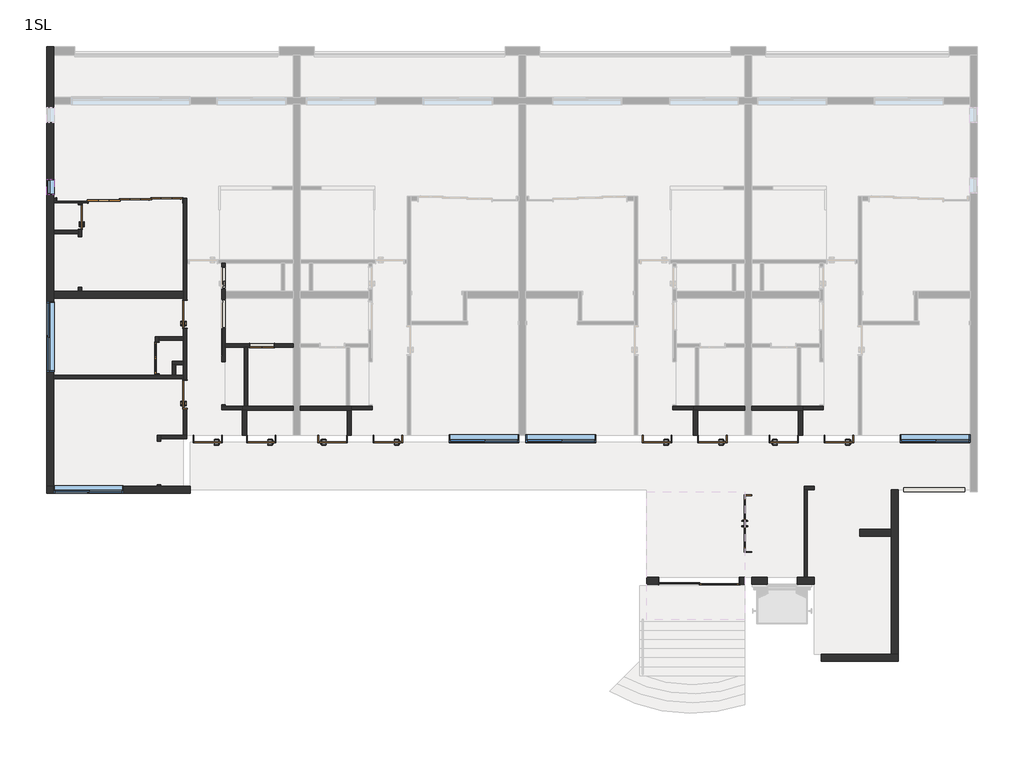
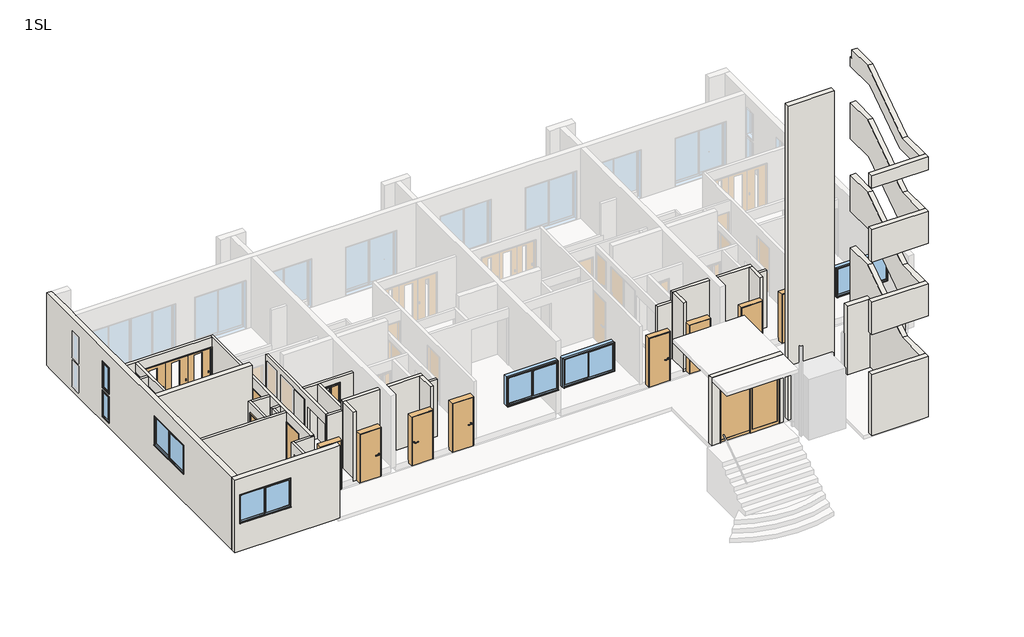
# One storey, part 1 of 3: 37 walls, 16 doors, 7 windows.
"""IFC4 building model written with IfcOpenShell, lengths in millimetres."""

from ifc_helpers import new_model, si_unit, frame, origin, place, context, project, spatial, polyline, outline, extrude, faceted_brep, transform, mapped, element, save
from components import door_02215395, door_74c77d62, door_561ce52f, door_3fdee943, door_21f0bdc0, door_3b96e66a, door_ecad7493, door_6eb1cc95, door_2193869f, window_a7724039, window_4c3e1407, w0450_h1100_93ba837a

model = new_model("IFC4")

# Units and contexts
model_context = context("Model", 3, world=origin())
ifc_project = project(units=[si_unit("LENGTHUNIT", "METRE", prefix="MILLI")], contexts=[model_context])

# Site, building, storey
site = spatial("IfcSite", under=ifc_project)
building = spatial("IfcBuilding", under=site)
storey = spatial("IfcBuildingStorey", under=building, Name="1SL", Elevation=1000.0)

# Doors
placement = place(None, origin())
door_shape = door_02215395(model_context)
element("IfcDoor", 1, ObjectType="鋼製_片開きマンション黒 : SD-1 w800h2000", at=placement, inside=storey, context=model_context, shape_type="MappedRepresentation", body=[
    mapped(door_shape, transform((-6095.6194095, -909.7401342, 1000.0), x_axis=(-1.0, 0.0, 0.0), y_axis=(0.0, -1.0, 0.0), z_axis=(0.0, 0.0, 1.0))),
])
element("IfcDoor", 2, ObjectType="鋼製_片開きマンション黒 : SD-1 w800h2000", at=placement, inside=storey, context=model_context, shape_type="MappedRepresentation", body=[
    mapped(door_shape, transform((-945.6194095, -909.7401342, 1000.0), x_axis=(-1.0, 0.0, 0.0), y_axis=(0.0, -1.0, 0.0), z_axis=(0.0, 0.0, 1.0))),
])
element("IfcDoor", 3, ObjectType="鋼製_片開きマンション黒 : SD-1 w800h2000", at=placement, inside=storey, context=model_context, shape_type="MappedRepresentation", body=[
    mapped(door_shape, transform((6754.3805905, -909.7401342, 1000.0), x_axis=(-1.0, 0.0, 0.0), y_axis=(0.0, -1.0, 0.0), z_axis=(0.0, 0.0, 1.0))),
])
element("IfcDoor", 4, ObjectType="鋼製_片開きマンション黒 : SD-1 w800h2000", at=placement, inside=storey, context=model_context, shape_type="MappedRepresentation", body=[
    mapped(door_shape, transform((11954.3805905, -909.7401342, 1000.0), x_axis=(-1.0, 0.0, 0.0), y_axis=(0.0, -1.0, 0.0), z_axis=(0.0, 0.0, 1.0))),
])
element("IfcDoor", 5, ObjectType="鋼製_片開きマンション黒 : SD-2 w800h2000", at=placement, inside=storey, context=model_context, shape_type="MappedRepresentation", body=[
    mapped(door_shape, transform((-4565.6194095, -909.7401342, 1000.0), x_axis=(-1.0, 0.0, 0.0), y_axis=(0.0, -1.0, 0.0), z_axis=(0.0, 0.0, 1.0))),
])
element("IfcDoor", 6, ObjectType="鋼製_片開きマンション黒 : SD-2 w800h2000", at=placement, inside=storey, context=model_context, shape_type="MappedRepresentation", body=[
    mapped(door_shape, transform((8334.3805905, -909.7401342, 1000.0), x_axis=(-1.0, 0.0, 0.0), y_axis=(0.0, -1.0, 0.0), z_axis=(0.0, 0.0, 1.0))),
])
door_2_shape = door_74c77d62(model_context)
element("IfcDoor", 7, ObjectType="鋼製_片開きマンション黒 : SD-2 w800h2000", at=placement, inside=storey, context=model_context, shape_type="MappedRepresentation", body=[
    mapped(door_2_shape, transform((-2525.6194095, -909.7401342, 1000.0), x_axis=(1.0, 0.0, 0.0), y_axis=(0.0, 1.0, 0.0), z_axis=(0.0, 0.0, 1.0))),
])
element("IfcDoor", 8, ObjectType="鋼製_片開きマンション黒 : SD-2 w800h2000", at=placement, inside=storey, context=model_context, shape_type="MappedRepresentation", body=[
    mapped(door_2_shape, transform((10374.3805905, -909.7401342, 1000.0), x_axis=(1.0, 0.0, 0.0), y_axis=(0.0, 1.0, 0.0), z_axis=(0.0, 0.0, 1.0))),
])
door_3_shape = door_561ce52f(model_context)
element("IfcDoor", 9, ObjectType="片引き_自動ドア_ガラス四方框 : AD-1 w2000h2200", at=placement, inside=storey, context=model_context, shape_type="MappedRepresentation", body=[
    mapped(door_3_shape, transform((7929.3805905, -4969.7401342, 1000.0), x_axis=(1.0, 0.0, 0.0), y_axis=(0.0, 1.0, 0.0), z_axis=(0.0, 0.0, 1.0))),
])
door_4_shape = door_3fdee943(model_context)
element("IfcDoor", 10, ObjectType="両開_ガラス四方框 : AD-2 w1600h2000", at=placement, inside=storey, context=model_context, shape_type="MappedRepresentation", body=[
    mapped(door_4_shape, transform((9354.3805905, -3329.7401342, 1000.0), x_axis=(0.0, 1.0, 0.0), y_axis=(-1.0, 0.0, 0.0), z_axis=(0.0, 0.0, 1.0))),
])
door_5_shape = door_21f0bdc0(model_context)
element("IfcDoor", 11, ObjectType="木製_片開き_フラッシュ : WD-3 w700h2000", at=placement, inside=storey, context=model_context, shape_type="MappedRepresentation", body=[
    mapped(door_5_shape, transform((-9745.6194095, 5440.2598658, 1100.0), x_axis=(0.0, 1.0, 0.0), y_axis=(-1.0, 0.0, 0.0), z_axis=(0.0, 0.0, 1.0))),
])
door_6_shape = door_3b96e66a(model_context)
element("IfcDoor", 12, ObjectType="木製_片開き_フラッシュ : WD-1\u3000w800h2000", at=placement, inside=storey, context=model_context, shape_type="MappedRepresentation", body=[
    mapped(door_6_shape, transform((-6745.6194095, 365.2598658, 1060.0), x_axis=(0.0, 1.0, 0.0), y_axis=(-1.0, 0.0, 0.0), z_axis=(0.0, 0.0, 1.0))),
])
element("IfcDoor", 13, ObjectType="木製_片開き_フラッシュ : WD-1\u3000w800h2000", at=placement, inside=storey, context=model_context, shape_type="MappedRepresentation", body=[
    mapped(door_6_shape, transform((-6745.6194095, 2654.3897435, 1060.0), x_axis=(0.0, 1.0, 0.0), y_axis=(-1.0, 0.0, 0.0), z_axis=(0.0, 0.0, 1.0))),
])
door_7_shape = door_ecad7493(model_context)
element("IfcDoor", 14, ObjectType="木製_折戸2枚_フラッシュ(UB) : WD-5 w900h2000", at=placement, inside=storey, context=model_context, shape_type="MappedRepresentation", body=[
    mapped(door_7_shape, transform((-7545.6194095, 1404.0387532, 1060.0), x_axis=(0.0, 1.0, 0.0), y_axis=(-1.0, 0.0, 0.0), z_axis=(0.0, 0.0, 1.0))),
])
door_8_shape = door_6eb1cc95(model_context)
element("IfcDoor", 15, ObjectType="木製_折戸2枚_フラッシュ(UB) : UB-1 w600h2000", at=placement, inside=storey, context=model_context, shape_type="MappedRepresentation", body=[
    mapped(door_8_shape, transform((-4545.6194095, 1760.2598658, 1210.0), x_axis=(1.0, 0.0, 0.0), y_axis=(0.0, 1.0, 0.0), z_axis=(0.0, 0.0, 1.0))),
])
door_9_shape = door_2193869f(model_context)
element("IfcDoor", 16, ObjectType="木製_片引き3枚_フラッシュ2 : WD-8 w2700h2000", at=placement, inside=storey, context=model_context, shape_type="MappedRepresentation", body=[
    mapped(door_9_shape, transform((-8171.1549135, 5910.2598658, 1100.0), x_axis=(-1.0, 0.0, 0.0), y_axis=(0.0, -1.0, 0.0), z_axis=(0.0, 0.0, 1.0))),
])

# Walls
element("IfcWall", 17, ObjectType="(C2)120", at=placement, inside=storey, context=model_context, shape_type="Brep", body=[
    faceted_brep([(-3645.6194095, 30.2598658, 1000.0), (-5105.6194095, 30.2598658, 1000.0), (-5105.6194095, 30.2598658, 1060.0), (-5105.6194095, 30.2598658, 3460.0), (-5105.6194095, 30.2598658, 3850.0), (-3645.6194095, 30.2598658, 3850.0), (-3645.6194095, -89.7401342, 1000.0), (-3645.6194095, -89.7401342, 3850.0), (-4985.6194095, -89.7401342, 3850.0), (-5105.6194095, -89.7401342, 3850.0), (-5105.6194095, -89.7401342, 1000.0), (-4985.6194095, -89.7401342, 1000.0)], [[[0, 1, 2, 3, 4, 5]], [[6, 7, 8, 9, 10, 11]], [[1, 0, 6, 11, 10]], [[5, 4, 9, 8, 7]], [[1, 10, 9, 4, 3, 2]], [[0, 5, 7, 6]]]),
])
element("IfcWall", 18, ObjectType="(C2)120", at=placement, inside=storey, context=model_context, shape_type="Brep", body=[
    faceted_brep([(-5105.6194095, -89.7401342, 3850.0), (-5105.6194095, -89.7401342, 1000.0), (-5105.6194095, -809.7401342, 1000.0), (-5105.6194095, -809.7401342, 3850.0), (-4985.6194095, -89.7401342, 1000.0), (-4985.6194095, -89.7401342, 3850.0), (-4985.6194095, -809.7401342, 3850.0), (-4985.6194095, -809.7401342, 3020.0), (-4985.6194095, -809.7401342, 1000.0)], [[[0, 1, 2, 3]], [[4, 5, 6, 7, 8]], [[2, 1, 4, 8]], [[0, 3, 6, 5]], [[0, 5, 4, 1]], [[3, 2, 8, 7, 6]]]),
])
element("IfcWall", 19, ObjectType="(C2)120", at=placement, inside=storey, context=model_context, shape_type="Brep", body=[
    faceted_brep([(-3445.6194095, -89.7401342, 1000.0), (-2105.6194095, -89.7401342, 1000.0), (-1985.6194095, -89.7401342, 1000.0), (-1985.6194095, -89.7401342, 3850.0), (-2105.6194095, -89.7401342, 3850.0), (-3445.6194095, -89.7401342, 3850.0), (-3445.6194095, 30.2598658, 1000.0), (-3445.6194095, 30.2598658, 3850.0), (-1985.6194095, 30.2598658, 3850.0), (-1985.6194095, 30.2598658, 3460.0), (-1985.6194095, 30.2598658, 1000.0), (-2035.6194095, 30.2598658, 1000.0), (-2135.6194095, 30.2598658, 1000.0), (-1985.6194095, -69.7401342, 1000.0)], [[[0, 1, 2, 3, 4, 5]], [[6, 7, 8, 9, 10, 11, 12]], [[2, 1, 0, 6, 12, 11, 10, 13]], [[5, 4, 3, 8, 7]], [[2, 13, 10, 9, 8, 3]], [[0, 5, 7, 6]]]),
])
element("IfcWall", 20, ObjectType="(C2)120", at=placement, inside=storey, context=model_context, shape_type="Brep", body=[
    faceted_brep([(-2105.6194095, -89.7401342, 3850.0), (-2105.6194095, -89.7401342, 1000.0), (-2105.6194095, -809.7401342, 1000.0), (-2105.6194095, -809.7401342, 3020.0), (-2105.6194095, -809.7401342, 3850.0), (-1985.6194095, -89.7401342, 1000.0), (-1985.6194095, -89.7401342, 3850.0), (-1985.6194095, -809.7401342, 3850.0), (-1985.6194095, -809.7401342, 1000.0)], [[[0, 1, 2, 3, 4]], [[5, 6, 7, 8]], [[2, 1, 5, 8]], [[0, 4, 7, 6]], [[0, 6, 5, 1]], [[4, 3, 2, 8, 7]]]),
])
element("IfcWall", 21, ObjectType="(C2)120", at=placement, inside=storey, context=model_context, shape_type="Brep", body=[
    faceted_brep([(9254.3805905, 30.2598658, 1000.0), (7944.3805905, 30.2598658, 1000.0), (7844.3805905, 30.2598658, 1000.0), (7794.3805905, 30.2598658, 1000.0), (7794.3805905, 30.2598658, 3460.0), (7794.3805905, 30.2598658, 3850.0), (9254.3805905, 30.2598658, 3850.0), (9254.3805905, -89.7401342, 1000.0), (9254.3805905, -89.7401342, 3850.0), (7914.3805905, -89.7401342, 3850.0), (7794.3805905, -89.7401342, 3850.0), (7794.3805905, -89.7401342, 1000.0), (7914.3805905, -89.7401342, 1000.0), (7794.3805905, -69.7401342, 1000.0)], [[[0, 1, 2, 3, 4, 5, 6]], [[7, 8, 9, 10, 11, 12]], [[3, 2, 1, 0, 7, 12, 11, 13]], [[6, 5, 10, 9, 8]], [[3, 13, 11, 10, 5, 4]], [[0, 6, 8, 7]]]),
])
element("IfcWall", 22, ObjectType="(C2)120", at=placement, inside=storey, context=model_context, shape_type="Brep", body=[
    faceted_brep([(7794.3805905, -89.7401342, 3850.0), (7794.3805905, -89.7401342, 1000.0), (7794.3805905, -809.7401342, 1000.0), (7794.3805905, -809.7401342, 3850.0), (7914.3805905, -89.7401342, 1000.0), (7914.3805905, -89.7401342, 3850.0), (7914.3805905, -809.7401342, 3850.0), (7914.3805905, -809.7401342, 3020.0), (7914.3805905, -809.7401342, 1000.0)], [[[0, 1, 2, 3]], [[4, 5, 6, 7, 8]], [[2, 1, 4, 8]], [[0, 3, 6, 5]], [[0, 5, 4, 1]], [[3, 2, 8, 7, 6]]]),
])
element("IfcWall", 23, ObjectType="(C2)120", at=placement, inside=storey, context=model_context, shape_type="Brep", body=[
    faceted_brep([(9454.3805905, -89.7401342, 1000.0), (10794.3805905, -89.7401342, 1000.0), (10914.3805905, -89.7401342, 1000.0), (10914.3805905, -89.7401342, 3850.0), (10794.3805905, -89.7401342, 3850.0), (9454.3805905, -89.7401342, 3850.0), (9454.3805905, 30.2598658, 1000.0), (9454.3805905, 30.2598658, 3850.0), (10914.3805905, 30.2598658, 3850.0), (10914.3805905, 30.2598658, 3460.0), (10914.3805905, 30.2598658, 1000.0), (10864.3805905, 30.2598658, 1000.0), (10764.3805905, 30.2598658, 1000.0), (10914.3805905, -69.7401342, 1000.0)], [[[0, 1, 2, 3, 4, 5]], [[6, 7, 8, 9, 10, 11, 12]], [[2, 1, 0, 6, 12, 11, 10, 13]], [[5, 4, 3, 8, 7]], [[2, 13, 10, 9, 8, 3]], [[0, 5, 7, 6]]]),
])
element("IfcWall", 24, ObjectType="(C2)120", at=placement, inside=storey, context=model_context, shape_type="Brep", body=[
    faceted_brep([(10794.3805905, -89.7401342, 3850.0), (10794.3805905, -89.7401342, 1000.0), (10794.3805905, -809.7401342, 1000.0), (10794.3805905, -809.7401342, 3020.0), (10794.3805905, -809.7401342, 3850.0), (10914.3805905, -89.7401342, 1000.0), (10914.3805905, -89.7401342, 3850.0), (10914.3805905, -809.7401342, 3850.0), (10914.3805905, -809.7401342, 1000.0)], [[[0, 1, 2, 3, 4]], [[5, 6, 7, 8]], [[2, 1, 5, 8]], [[0, 4, 7, 6]], [[0, 6, 5, 1]], [[4, 3, 2, 8, 7]]]),
])
element("IfcWall", 25, ObjectType="(L)100", at=placement, inside=storey, context=model_context, shape_type="Brep", body=[
    faceted_brep([(-7545.6194095, -2259.7401342, 3460.0), (-7545.6194095, -809.7401342, 3460.0), (-7545.6194095, -809.7401342, 1060.0), (-7545.6194095, -975.9612468, 1060.0), (-7545.6194095, -975.9612468, 3080.0), (-7545.6194095, -2215.9612468, 3080.0), (-7545.6194095, -2215.9612468, 1060.0), (-7545.6194095, -2259.7401342, 1060.0), (-7445.6194095, -809.7401342, 3460.0), (-7445.6194095, -909.7401342, 3460.0), (-7445.6194095, -2259.7401342, 3460.0), (-7445.6194095, -2259.7401342, 1060.0), (-7445.6194095, -2215.9612468, 1060.0), (-7445.6194095, -2215.9612468, 3080.0), (-7445.6194095, -975.9612468, 3080.0), (-7445.6194095, -975.9612468, 1060.0), (-7445.6194095, -909.7401342, 1060.0), (-7445.6194095, -809.7401342, 1060.0)], [[[0, 1, 2, 3, 4, 5, 6, 7]], [[8, 9, 10, 11, 12, 13, 14, 15, 16, 17]], [[2, 17, 16, 15, 3]], [[11, 7, 6, 12]], [[1, 0, 10, 9, 8]], [[2, 1, 8, 17]], [[0, 7, 11, 10]], [[14, 4, 3, 15]], [[5, 13, 12, 6]], [[13, 5, 4, 14]]]),
])
element("IfcWall", 26, ObjectType="(L)100", at=placement, inside=storey, context=model_context, shape_type="Brep", body=[
    faceted_brep([(-6745.6194095, -809.7401342, 1060.0), (-7445.6194095, -809.7401342, 1060.0), (-7445.6194095, -809.7401342, 3460.0), (-6795.6194095, -809.7401342, 3460.0), (-6695.6194095, -809.7401342, 3460.0), (-6695.6194095, -809.7401342, 1100.0), (-6745.6194095, -809.7401342, 1100.0), (-6745.6194095, -909.7401342, 1060.0), (-6745.6194095, -909.7401342, 1100.0), (-6695.6194095, -909.7401342, 1100.0), (-6695.6194095, -909.7401342, 3460.0), (-7445.6194095, -909.7401342, 3460.0), (-7445.6194095, -909.7401342, 1060.0), (-6795.6194095, -909.7401342, 1060.0), (-6695.6194095, -859.7401342, 3460.0)], [[[0, 1, 2, 3, 4, 5, 6]], [[7, 8, 9, 10, 11, 12, 13]], [[1, 0, 7, 13, 12]], [[4, 3, 2, 11, 10, 14]], [[0, 6, 8, 7]], [[5, 9, 8, 6]], [[5, 4, 14, 10, 9]], [[2, 1, 12, 11]]]),
])
element("IfcWall", 27, ObjectType="(L)100", at=placement, inside=storey, context=model_context, shape_type="Brep", body=[
    faceted_brep([(-6795.6194095, 910.2598658, 1060.0), (-7015.6194095, 910.2598658, 1060.0), (-7115.6194095, 910.2598658, 1060.0), (-10495.6194095, 910.2598658, 1060.0), (-10495.6194095, 910.2598658, 3460.0), (-7595.6194095, 910.2598658, 3460.0), (-7495.6194095, 910.2598658, 3460.0), (-7115.6194095, 910.2598658, 3460.0), (-7015.6194095, 910.2598658, 3460.0), (-6795.6194095, 910.2598658, 3460.0), (-6795.6194095, 810.2598658, 1060.0), (-6795.6194095, 810.2598658, 3460.0), (-10495.6194095, 810.2598658, 3460.0), (-10495.6194095, 810.2598658, 1060.0)], [[[0, 1, 2, 3, 4, 5, 6, 7, 8, 9]], [[10, 11, 12, 13]], [[3, 2, 1, 0, 10, 13]], [[9, 8, 7, 6, 5, 4, 12, 11]], [[0, 9, 11, 10]], [[4, 3, 13, 12]]]),
])
element("IfcWall", 28, ObjectType="(L)100", at=placement, inside=storey, context=model_context, shape_type="Brep", body=[
    faceted_brep([(-5105.6194095, 30.2598658, 1060.0), (-5595.6194095, 30.2598658, 1060.0), (-5695.6194095, 30.2598658, 1060.0), (-5695.6194095, 30.2598658, 3460.0), (-5595.6194095, 30.2598658, 3460.0), (-5105.6194095, 30.2598658, 3460.0), (-5105.6194095, -69.7401342, 1060.0), (-5105.6194095, -69.7401342, 3460.0), (-5695.6194095, -69.7401342, 3460.0), (-5695.6194095, -69.7401342, 1060.0)], [[[0, 1, 2, 3, 4, 5]], [[6, 7, 8, 9]], [[2, 1, 0, 6, 9]], [[5, 4, 3, 8, 7]], [[3, 2, 9, 8]], [[0, 5, 7, 6]]]),
])
element("IfcWall", 29, ObjectType="(L)100", at=placement, inside=storey, context=model_context, shape_type="Brep", body=[
    faceted_brep([(-5595.6194095, 4110.2598658, 3460.0), (-5595.6194095, 1810.2598658, 3460.0), (-5595.6194095, 1710.2598658, 3460.0), (-5595.6194095, 30.2598658, 3460.0), (-5595.6194095, 30.2598658, 1060.0), (-5595.6194095, 60.2598658, 1060.0), (-5595.6194095, 60.2598658, 3020.0), (-5595.6194095, 1300.2598658, 3020.0), (-5595.6194095, 1300.2598658, 1060.0), (-5595.6194095, 1710.2598658, 1060.0), (-5595.6194095, 1810.2598658, 1060.0), (-5595.6194095, 4110.2598658, 1060.0), (-5595.6194095, 2250.2598658, 3230.0), (-5595.6194095, 3090.2598658, 3230.0), (-5595.6194095, 3090.2598658, 1210.0), (-5595.6194095, 2250.2598658, 1210.0), (-5595.6194095, 4016.254513, 3230.0), (-5595.6194095, 4016.254513, 1210.0), (-5595.6194095, 3376.254513, 1210.0), (-5595.6194095, 3376.254513, 3230.0), (-5695.6194095, 30.2598658, 3460.0), (-5695.6194095, 4110.2598658, 3460.0), (-5695.6194095, 4110.2598658, 1060.0), (-5695.6194095, 1300.2598658, 1060.0), (-5695.6194095, 1300.2598658, 3020.0), (-5695.6194095, 60.2598658, 3020.0), (-5695.6194095, 60.2598658, 1060.0), (-5695.6194095, 30.2598658, 1060.0), (-5695.6194095, 3090.2598658, 3230.0), (-5695.6194095, 1450.2598658, 3230.0), (-5695.6194095, 1450.2598658, 1210.0), (-5695.6194095, 3090.2598658, 1210.0), (-5695.6194095, 4016.254513, 1210.0), (-5695.6194095, 4016.254513, 3230.0), (-5695.6194095, 3376.254513, 3230.0), (-5695.6194095, 3376.254513, 1210.0), (-5665.6194095, 2250.2598658, 3230.0), (-5665.6194095, 1450.2598658, 3230.0), (-5665.6194095, 1450.2598658, 1210.0), (-5665.6194095, 2250.2598658, 1210.0)], [[[0, 1, 2, 3, 4, 5, 6, 7, 8, 9, 10, 11], [12, 13, 14, 15], [16, 17, 18, 19]], [[20, 21, 22, 23, 24, 25, 26, 27], [28, 29, 30, 31], [32, 33, 34, 35]], [[22, 11, 10, 9, 8, 23]], [[4, 27, 26, 5]], [[3, 2, 1, 0, 21, 20]], [[0, 11, 22, 21]], [[4, 3, 20, 27]], [[7, 24, 23, 8]], [[25, 6, 5, 26]], [[24, 7, 6, 25]], [[36, 37, 29, 28, 13, 12]], [[13, 28, 31, 14]], [[38, 39, 15, 14, 31, 30]], [[39, 36, 12, 15]], [[37, 36, 39, 38]], [[37, 38, 30, 29]], [[16, 33, 32, 17]], [[17, 32, 35, 18]], [[18, 35, 34, 19]], [[33, 16, 19, 34]]]),
])
element("IfcWall", 30, ObjectType="(L)100", at=placement, inside=storey, context=model_context, shape_type="Brep", body=[
    faceted_brep([(-3645.6194095, 1810.2598658, 1060.0), (-5595.6194095, 1810.2598658, 1060.0), (-5595.6194095, 1810.2598658, 3460.0), (-3645.6194095, 1810.2598658, 3460.0), (-4175.6194095, 1810.2598658, 3230.0), (-4915.6194095, 1810.2598658, 3230.0), (-4915.6194095, 1810.2598658, 1210.0), (-4175.6194095, 1810.2598658, 1210.0), (-3645.6194095, 1710.2598658, 1060.0), (-3645.6194095, 1710.2598658, 3460.0), (-4955.6194095, 1710.2598658, 3460.0), (-5055.6194095, 1710.2598658, 3460.0), (-5595.6194095, 1710.2598658, 3460.0), (-5595.6194095, 1710.2598658, 1060.0), (-5055.6194095, 1710.2598658, 1060.0), (-4955.6194095, 1710.2598658, 1060.0), (-4175.6194095, 1710.2598658, 3230.0), (-4175.6194095, 1710.2598658, 1210.0), (-4915.6194095, 1710.2598658, 1210.0), (-4915.6194095, 1710.2598658, 3230.0)], [[[0, 1, 2, 3], [4, 5, 6, 7]], [[8, 9, 10, 11, 12, 13, 14, 15], [16, 17, 18, 19]], [[1, 0, 8, 15, 14, 13]], [[3, 2, 12, 11, 10, 9]], [[2, 1, 13, 12]], [[0, 3, 9, 8]], [[17, 16, 4, 7]], [[18, 17, 7, 6]], [[19, 18, 6, 5]], [[16, 19, 5, 4]]]),
])
element("IfcWall", 31, ObjectType="(L)100", at=placement, inside=storey, context=model_context, shape_type="Brep", body=[
    faceted_brep([(-7595.6194095, 2010.2598658, 1000.0), (-7595.6194095, 910.2598658, 1000.0), (-7595.6194095, 910.2598658, 3460.0), (-7595.6194095, 2010.2598658, 3460.0), (-7595.6194095, 934.0387532, 1060.0), (-7595.6194095, 1874.0387532, 1060.0), (-7595.6194095, 1874.0387532, 3080.0), (-7595.6194095, 934.0387532, 3080.0), (-7495.6194095, 910.2598658, 1000.0), (-7495.6194095, 2010.2598658, 1000.0), (-7495.6194095, 2010.2598658, 1060.0), (-7495.6194095, 2010.2598658, 3460.0), (-7495.6194095, 1910.2598658, 3460.0), (-7495.6194095, 910.2598658, 3460.0), (-7495.6194095, 1874.0387532, 1060.0), (-7495.6194095, 934.0387532, 1060.0), (-7495.6194095, 934.0387532, 3080.0), (-7495.6194095, 1874.0387532, 3080.0)], [[[0, 1, 2, 3], [4, 5, 6, 7]], [[8, 9, 10, 11, 12, 13], [14, 15, 16, 17]], [[1, 0, 9, 8]], [[3, 2, 13, 12, 11]], [[0, 3, 11, 10, 9]], [[2, 1, 8, 13]], [[5, 14, 17, 6]], [[14, 5, 4, 15]], [[15, 4, 7, 16]], [[16, 7, 6, 17]]]),
])
element("IfcWall", 32, ObjectType="(L)100", at=placement, inside=storey, context=model_context, shape_type="SweptSolid", body=[
    extrude(outline(polyline([(-7495.6194095, 2010.2598658), (-6795.6194095, 2010.2598658), (-6795.6194095, 1910.2598658), (-7495.6194095, 1910.2598658), (-7495.6194095, 2010.2598658)])), frame((0.0, 0.0, 1060.0), z_axis=(0.0, 0.0, 1.0), x_axis=(1.0, 0.0, 0.0)), (0.0, 0.0, 1.0), 2400.0),
])
element("IfcWall", 33, ObjectType="(L)100", at=placement, inside=storey, context=model_context, shape_type="Brep", body=[
    faceted_brep([(-6795.6194095, -859.7401342, 3500.0), (-6795.6194095, 5847.7598658, 3500.0), (-6795.6194095, 5972.7598658, 3500.0), (-6795.6194095, 5972.7598658, 3120.0), (-6795.6194095, 5972.7598658, 1100.0), (-6795.6194095, 3074.3897435, 1100.0), (-6795.6194095, 3074.3897435, 3080.0), (-6795.6194095, 2234.3897435, 3080.0), (-6795.6194095, 2234.3897435, 1100.0), (-6795.6194095, 785.2598658, 1100.0), (-6795.6194095, 785.2598658, 3080.0), (-6795.6194095, -54.7401342, 3080.0), (-6795.6194095, -54.7401342, 1100.0), (-6795.6194095, -809.7401342, 1100.0), (-6795.6194095, -809.7401342, 3460.0), (-6795.6194095, -859.7401342, 3460.0), (-6695.6194095, 5972.7598658, 3500.0), (-6695.6194095, -859.7401342, 3500.0), (-6695.6194095, -859.7401342, 3460.0), (-6695.6194095, -809.7401342, 3460.0), (-6695.6194095, -809.7401342, 1100.0), (-6695.6194095, -54.7401342, 1100.0), (-6695.6194095, -54.7401342, 3080.0), (-6695.6194095, 785.2598658, 3080.0), (-6695.6194095, 785.2598658, 1100.0), (-6695.6194095, 2234.3897435, 1100.0), (-6695.6194095, 2234.3897435, 3080.0), (-6695.6194095, 3074.3897435, 3080.0), (-6695.6194095, 3074.3897435, 1100.0), (-6695.6194095, 5972.7598658, 1100.0), (-6745.6194095, -809.7401342, 1100.0)], [[[0, 1, 2, 3, 4, 5, 6, 7, 8, 9, 10, 11, 12, 13, 14, 15]], [[16, 17, 18, 19, 20, 21, 22, 23, 24, 25, 26, 27, 28, 29]], [[4, 29, 28, 5]], [[20, 30, 13, 12, 21]], [[24, 9, 8, 25]], [[2, 1, 0, 17, 16]], [[4, 3, 2, 16, 29]], [[17, 0, 15, 18]], [[18, 15, 14, 19]], [[13, 30, 20, 19, 14]], [[23, 10, 9, 24]], [[11, 22, 21, 12]], [[10, 23, 22, 11]], [[27, 6, 5, 28]], [[7, 26, 25, 8]], [[6, 27, 26, 7]]]),
])
element("IfcWall", 34, ObjectType="(L)100", at=placement, inside=storey, context=model_context, shape_type="SweptSolid", body=[
    extrude(outline(polyline([(3310.2598658, 3500.0), (5847.7598658, 3500.0), (5847.7598658, 1100.0), (5810.2598658, 1100.0), (5810.2598658, 3120.0), (5070.2598658, 3120.0), (5070.2598658, 1100.0), (4866.254513, 1100.0), (4866.254513, 3080.0), (3426.254513, 3080.0), (3426.254513, 1100.0), (3310.2598658, 1100.0), (3310.2598658, 3500.0)])), frame((-9795.6194095, 0.0, 0.0), z_axis=(1.0, 0.0, 0.0), x_axis=(0.0, 1.0, 0.0)), (0.0, 0.0, 1.0), 100.0),
])
element("IfcWall", 35, ObjectType="(L)100", at=placement, inside=storey, context=model_context, shape_type="SweptSolid", body=[
    extrude(outline(polyline([(-10495.6194095, 5060.2598658), (-9795.6194095, 5060.2598658), (-9795.6194095, 4960.2598658), (-10495.6194095, 4960.2598658), (-10495.6194095, 5060.2598658)])), frame((0.0, 0.0, 1060.0), z_axis=(0.0, 0.0, 1.0), x_axis=(1.0, 0.0, 0.0)), (0.0, 0.0, 1.0), 2400.0),
])
element("IfcWall", 36, ObjectType="(L)100", at=placement, inside=storey, context=model_context, shape_type="Brep", body=[
    faceted_brep([(-1985.6194095, -69.7401342, 1000.0), (-1395.6194095, -69.7401342, 1000.0), (-1395.6194095, -69.7401342, 3460.0), (-1985.6194095, -69.7401342, 3460.0), (-1985.6194095, 30.2598658, 1000.0), (-1985.6194095, 30.2598658, 3460.0), (-1495.6194095, 30.2598658, 3460.0), (-1395.6194095, 30.2598658, 3460.0), (-1395.6194095, 30.2598658, 1060.0), (-1395.6194095, 30.2598658, 1000.0)], [[[0, 1, 2, 3]], [[4, 5, 6, 7, 8, 9]], [[1, 0, 4, 9]], [[3, 2, 7, 6, 5]], [[2, 1, 9, 8, 7]], [[0, 3, 5, 4]]]),
])
element("IfcWall", 37, ObjectType="(L)100", at=placement, inside=storey, context=model_context, shape_type="SweptSolid", body=[
    extrude(outline(polyline([(-5055.6194095, 30.2598658), (-5055.6194095, 1710.2598658), (-4955.6194095, 1710.2598658), (-4955.6194095, 30.2598658), (-5055.6194095, 30.2598658)])), frame((0.0, 0.0, 1060.0), z_axis=(0.0, 0.0, 1.0), x_axis=(1.0, 0.0, 0.0)), (0.0, 0.0, 1.0), 2400.0),
])
element("IfcWall", 38, ObjectType="(L)100", at=placement, inside=storey, context=model_context, shape_type="Brep", body=[
    faceted_brep([(7794.3805905, 30.2598658, 1000.0), (7204.3805905, 30.2598658, 1000.0), (7204.3805905, 30.2598658, 1060.0), (7204.3805905, 30.2598658, 3460.0), (7304.3805905, 30.2598658, 3460.0), (7794.3805905, 30.2598658, 3460.0), (7794.3805905, -69.7401342, 1000.0), (7794.3805905, -69.7401342, 3460.0), (7204.3805905, -69.7401342, 3460.0), (7204.3805905, -69.7401342, 1000.0)], [[[0, 1, 2, 3, 4, 5]], [[6, 7, 8, 9]], [[1, 0, 6, 9]], [[5, 4, 3, 8, 7]], [[3, 2, 1, 9, 8]], [[0, 5, 7, 6]]]),
])
element("IfcWall", 39, ObjectType="(L)100", at=placement, inside=storey, context=model_context, shape_type="Brep", body=[
    faceted_brep([(10914.3805905, -69.7401342, 1000.0), (11504.3805905, -69.7401342, 1000.0), (11504.3805905, -69.7401342, 3460.0), (10914.3805905, -69.7401342, 3460.0), (10914.3805905, 30.2598658, 1000.0), (10914.3805905, 30.2598658, 3460.0), (11404.3805905, 30.2598658, 3460.0), (11504.3805905, 30.2598658, 3460.0), (11504.3805905, 30.2598658, 1060.0), (11504.3805905, 30.2598658, 1000.0)], [[[0, 1, 2, 3]], [[4, 5, 6, 7, 8, 9]], [[1, 0, 4, 9]], [[3, 2, 7, 6, 5]], [[2, 1, 9, 8, 7]], [[0, 3, 5, 4]]]),
])
element("IfcWall", 40, ObjectType="(L)100", at=placement, inside=storey, context=model_context, shape_type="Brep", body=[
    faceted_brep([(-6795.6194095, 1310.2598658, 1060.0), (-7115.6194095, 1310.2598658, 1060.0), (-7115.6194095, 1310.2598658, 3460.0), (-6795.6194095, 1310.2598658, 3460.0), (-6795.6194095, 1210.2598658, 1060.0), (-6795.6194095, 1210.2598658, 3460.0), (-7015.6194095, 1210.2598658, 3460.0), (-7115.6194095, 1210.2598658, 3460.0), (-7115.6194095, 1210.2598658, 1060.0), (-7015.6194095, 1210.2598658, 1060.0)], [[[0, 1, 2, 3]], [[4, 5, 6, 7, 8, 9]], [[1, 0, 4, 9, 8]], [[3, 2, 7, 6, 5]], [[2, 1, 8, 7]], [[0, 3, 5, 4]]]),
])
element("IfcWall", 41, ObjectType="(L)100", at=placement, inside=storey, context=model_context, shape_type="SweptSolid", body=[
    extrude(outline(polyline([(-7115.6194095, 910.2598658), (-7115.6194095, 1210.2598658), (-7015.6194095, 1210.2598658), (-7015.6194095, 910.2598658), (-7115.6194095, 910.2598658)])), frame((0.0, 0.0, 1060.0), z_axis=(0.0, 0.0, 1.0), x_axis=(1.0, 0.0, 0.0)), (0.0, 0.0, 1.0), 2400.0),
])
element("IfcWall", 42, ObjectType="(L)100", at=placement, inside=storey, context=model_context, shape_type="Brep", body=[
    faceted_brep([(11254.3805905, -2269.7401342, 1000.0), (10954.3805905, -2269.7401342, 1000.0), (10954.3805905, -2269.7401342, 4000.0), (11254.3805905, -2269.7401342, 4000.0), (11254.3805905, -2369.7401342, 1000.0), (11254.3805905, -2369.7401342, 4000.0), (11054.3805905, -2369.7401342, 4000.0), (10954.3805905, -2369.7401342, 4000.0), (10954.3805905, -2369.7401342, 1000.0), (11054.3805905, -2369.7401342, 1000.0)], [[[0, 1, 2, 3]], [[4, 5, 6, 7, 8, 9]], [[1, 0, 4, 9, 8]], [[3, 2, 7, 6, 5]], [[2, 1, 8, 7]], [[0, 3, 5, 4]]]),
])
element("IfcWall", 43, ObjectType="(L)100", at=placement, inside=storey, context=model_context, shape_type="SweptSolid", body=[
    extrude(outline(polyline([(10954.3805905, -4859.7401342), (10954.3805905, -2369.7401342), (11054.3805905, -2369.7401342), (11054.3805905, -4859.7401342), (10954.3805905, -4859.7401342)])), frame((0.0, 0.0, 1000.0), z_axis=(0.0, 0.0, 1.0), x_axis=(1.0, 0.0, 0.0)), (0.0, 0.0, 1.0), 3000.0),
])
element("IfcWall", 44, ObjectType="(L1)125", at=placement, inside=storey, context=model_context, shape_type="Brep", body=[
    faceted_brep([(-6795.6194095, 5847.7598658, 3500.0), (-9695.6194095, 5847.7598658, 3500.0), (-9795.6194095, 5847.7598658, 3500.0), (-10495.6194095, 5847.7598658, 3500.0), (-10495.6194095, 5847.7598658, 1100.0), (-9795.6194095, 5847.7598658, 1100.0), (-9695.6194095, 5847.7598658, 1100.0), (-9535.6194095, 5847.7598658, 1100.0), (-9535.6194095, 5847.7598658, 3120.0), (-6795.6194095, 5847.7598658, 3120.0), (-10495.6194095, 5972.7598658, 3500.0), (-6795.6194095, 5972.7598658, 3500.0), (-6795.6194095, 5972.7598658, 3120.0), (-10435.6194095, 5972.7598658, 3120.0), (-10435.6194095, 5972.7598658, 1100.0), (-10495.6194095, 5972.7598658, 1100.0), (-10435.6194095, 5882.7598658, 1100.0), (-9535.6194095, 5882.7598658, 1100.0), (-9535.6194095, 5882.7598658, 3120.0), (-10435.6194095, 5882.7598658, 3120.0)], [[[0, 1, 2, 3, 4, 5, 6, 7, 8, 9]], [[10, 11, 12, 13, 14, 15]], [[4, 15, 14, 16, 17, 7, 6, 5]], [[3, 2, 1, 0, 11, 10]], [[11, 0, 9, 12]], [[4, 3, 10, 15]], [[18, 19, 13, 12, 9, 8]], [[17, 18, 8, 7]], [[19, 18, 17, 16]], [[19, 16, 14, 13]]]),
])
element("IfcWall", 45, ObjectType="(R)120", at=placement, inside=storey, context=model_context, shape_type="SweptSolid", body=[
    extrude(outline(polyline([(15554.3805905, -2419.7401342), (13804.3805905, -2419.7401342), (13804.3805905, -2299.7401342), (15554.3805905, -2299.7401342), (15554.3805905, -2419.7401342)])), frame((0.0, 0.0, 800.0), z_axis=(0.0, 0.0, 1.0), x_axis=(1.0, 0.0, 0.0)), (0.0, 0.0, 1.0), 1300.0),
])
element("IfcWall", 46, ObjectType="(R)200", at=placement, inside=storey, context=model_context, shape_type="Brep", body=[
    faceted_brep([(-10495.6194095, -2259.7401342, 1000.0), (-10495.6194095, 3110.2598658, 1000.0), (-10495.6194095, 3310.2598658, 1000.0), (-10495.6194095, 8660.2598658, 1000.0), (-10495.6194095, 8860.2598658, 1000.0), (-10495.6194095, 10059.9866207, 1000.0), (-10495.6194095, 10309.9866207, 1000.0), (-10495.6194095, 10309.9866207, 4000.0), (-10495.6194095, 10059.9866207, 4000.0), (-10495.6194095, 8860.2598658, 4000.0), (-10495.6194095, 8660.2598658, 4000.0), (-10495.6194095, 3310.2598658, 4000.0), (-10495.6194095, 3110.2598658, 4000.0), (-10495.6194095, -2259.7401342, 4000.0), (-10495.6194095, 1014.3897435, 2130.0), (-10495.6194095, 1014.3897435, 3330.0), (-10495.6194095, 3014.3897435, 3330.0), (-10495.6194095, 3014.3897435, 2130.0), (-10495.6194095, 6070.2598658, 2380.0), (-10495.6194095, 6070.2598658, 3480.0), (-10495.6194095, 6520.2598658, 3480.0), (-10495.6194095, 6520.2598658, 2380.0), (-10495.6194095, 6070.2598658, 1180.0), (-10495.6194095, 6070.2598658, 2280.0), (-10495.6194095, 6520.2598658, 2280.0), (-10495.6194095, 6520.2598658, 1180.0), (-10495.6194095, 8130.2598658, 2380.0), (-10495.6194095, 8130.2598658, 3480.0), (-10495.6194095, 8580.2598658, 3480.0), (-10495.6194095, 8580.2598658, 2380.0), (-10495.6194095, 8130.2598658, 1180.0), (-10495.6194095, 8130.2598658, 2280.0), (-10495.6194095, 8580.2598658, 2280.0), (-10495.6194095, 8580.2598658, 1180.0), (-10695.6194095, -2259.7401342, 1000.0), (-10695.6194095, -2259.7401342, 4000.0), (-10695.6194095, 10309.9866207, 4000.0), (-10695.6194095, 10309.9866207, 1000.0), (-10695.6194095, 10059.9866207, 1000.0), (-10695.6194095, 1014.3897435, 2130.0), (-10695.6194095, 3014.3897435, 2130.0), (-10695.6194095, 3014.3897435, 3330.0), (-10695.6194095, 1014.3897435, 3330.0), (-10695.6194095, 6070.2598658, 2380.0), (-10695.6194095, 6520.2598658, 2380.0), (-10695.6194095, 6520.2598658, 3480.0), (-10695.6194095, 6070.2598658, 3480.0), (-10695.6194095, 6070.2598658, 1180.0), (-10695.6194095, 6520.2598658, 1180.0), (-10695.6194095, 6520.2598658, 2280.0), (-10695.6194095, 6070.2598658, 2280.0), (-10695.6194095, 8130.2598658, 2380.0), (-10695.6194095, 8580.2598658, 2380.0), (-10695.6194095, 8580.2598658, 3480.0), (-10695.6194095, 8130.2598658, 3480.0), (-10695.6194095, 8130.2598658, 1180.0), (-10695.6194095, 8580.2598658, 1180.0), (-10695.6194095, 8580.2598658, 2280.0), (-10695.6194095, 8130.2598658, 2280.0)], [[[0, 1, 2, 3, 4, 5, 6, 7, 8, 9, 10, 11, 12, 13], [14, 15, 16, 17], [18, 19, 20, 21], [22, 23, 24, 25], [26, 27, 28, 29], [30, 31, 32, 33]], [[34, 35, 36, 37, 38], [39, 40, 41, 42], [43, 44, 45, 46], [47, 48, 49, 50], [51, 52, 53, 54], [55, 56, 57, 58]], [[6, 5, 4, 3, 2, 1, 0, 34, 38, 37]], [[13, 12, 11, 10, 9, 8, 7, 36, 35]], [[0, 13, 35, 34]], [[7, 6, 37, 36]], [[15, 14, 39, 42]], [[16, 15, 42, 41]], [[17, 16, 41, 40]], [[14, 17, 40, 39]], [[19, 18, 43, 46]], [[20, 19, 46, 45]], [[21, 20, 45, 44]], [[18, 21, 44, 43]], [[23, 22, 47, 50]], [[24, 23, 50, 49]], [[25, 24, 49, 48]], [[22, 25, 48, 47]], [[27, 26, 51, 54]], [[28, 27, 54, 53]], [[29, 28, 53, 52]], [[26, 29, 52, 51]], [[31, 30, 55, 58]], [[32, 31, 58, 57]], [[33, 32, 57, 56]], [[30, 33, 56, 55]]]),
])
element("IfcWall", 47, ObjectType="(R)200", at=placement, inside=storey, context=model_context, shape_type="Brep", body=[
    faceted_brep([(-6595.6194095, -2259.7401342, 1000.0), (-6795.6194095, -2259.7401342, 1000.0), (-10495.6194095, -2259.7401342, 1000.0), (-10695.6194095, -2259.7401342, 1000.0), (-10695.6194095, -2259.7401342, 4000.0), (-10495.6194095, -2259.7401342, 4000.0), (-6795.6194095, -2259.7401342, 4000.0), (-6595.6194095, -2259.7401342, 4000.0), (-8505.6194095, -2259.7401342, 2120.0), (-8505.6194095, -2259.7401342, 3320.0), (-10505.6194095, -2259.7401342, 3320.0), (-10505.6194095, -2259.7401342, 2120.0), (-6595.6194095, -2459.7401342, 1000.0), (-6595.6194095, -2459.7401342, 4000.0), (-6795.6194095, -2459.7401342, 4000.0), (-10695.6194095, -2459.7401342, 4000.0), (-10695.6194095, -2459.7401342, 1000.0), (-6795.6194095, -2459.7401342, 1000.0), (-8505.6194095, -2459.7401342, 2120.0), (-10505.6194095, -2459.7401342, 2120.0), (-10505.6194095, -2459.7401342, 3320.0), (-8505.6194095, -2459.7401342, 3320.0)], [[[0, 1, 2, 3, 4, 5, 6, 7], [8, 9, 10, 11]], [[12, 13, 14, 15, 16, 17], [18, 19, 20, 21]], [[3, 2, 1, 0, 12, 17, 16]], [[7, 6, 5, 4, 15, 14, 13]], [[4, 3, 16, 15]], [[0, 7, 13, 12]], [[9, 8, 18, 21]], [[10, 9, 21, 20]], [[11, 10, 20, 19]], [[8, 11, 19, 18]]]),
])
element("IfcWall", 48, ObjectType="(R)200", at=placement, inside=storey, context=model_context, shape_type="Brep", body=[
    faceted_brep([(9904.3805904, -4869.7401342, 3125.0), (9904.3805904, -4869.7401342, 1000.0), (9454.3805905, -4869.7401342, 1000.0), (9454.3805905, -4869.7401342, 14000.0), (11254.3805905, -4869.7401342, 14000.0), (11254.3805905, -4869.7401342, 1000.0), (10754.3805904, -4869.7401342, 1000.0), (10754.3805904, -4869.7401342, 3125.0), (9454.3805905, -5069.7401342, 1000.0), (9904.3805904, -5069.7401342, 1000.0), (9904.3805904, -5069.7401342, 3125.0), (10754.3805904, -5069.7401342, 3125.0), (10754.3805904, -5069.7401342, 1000.0), (11254.3805905, -5069.7401342, 1000.0), (11254.3805905, -5069.7401342, 14000.0), (9454.3805905, -5069.7401342, 14000.0), (9454.3805905, -4969.7401342, 1000.0), (11254.3805905, -4969.7401342, 1000.0)], [[[0, 1, 2, 3, 4, 5, 6, 7]], [[8, 9, 10, 11, 12, 13, 14, 15]], [[2, 1, 9, 8, 16]], [[6, 5, 17, 13, 12]], [[4, 3, 15, 14]], [[2, 16, 8, 15, 3]], [[4, 14, 13, 17, 5]], [[12, 11, 7, 6]], [[10, 9, 1, 0]], [[11, 10, 0, 7]]]),
])
element("IfcWall", 49, ObjectType="(R)200", at=placement, inside=storey, context=model_context, shape_type="Brep", body=[
    faceted_brep([(6784.3805905, -4869.7401342, 3400.0), (6784.3805905, -4869.7401342, 1000.0), (6454.3805905, -4869.7401342, 1000.0), (6454.3805905, -4869.7401342, 3800.0), (9254.3805905, -4869.7401342, 3800.0), (9254.3805905, -4869.7401342, 1000.0), (9124.3805905, -4869.7401342, 1000.0), (9124.3805905, -4869.7401342, 3400.0), (6454.3805905, -5069.7401342, 1000.0), (6784.3805905, -5069.7401342, 1000.0), (6784.3805905, -5069.7401342, 3400.0), (9124.3805905, -5069.7401342, 3400.0), (9124.3805905, -5069.7401342, 1000.0), (9254.3805905, -5069.7401342, 1000.0), (9254.3805905, -5069.7401342, 3800.0), (6454.3805905, -5069.7401342, 3800.0), (9254.3805905, -4969.7401342, 1000.0)], [[[0, 1, 2, 3, 4, 5, 6, 7]], [[8, 9, 10, 11, 12, 13, 14, 15]], [[2, 1, 9, 8]], [[6, 5, 16, 13, 12]], [[4, 3, 15, 14]], [[5, 4, 14, 13, 16]], [[3, 2, 8, 15]], [[12, 11, 7, 6]], [[10, 9, 1, 0]], [[11, 10, 0, 7]]]),
])
element("IfcWall", 50, ObjectType="(R)200", at=placement, inside=storey, context=model_context, shape_type="SweptSolid", body=[
    extrude(outline(polyline([(13454.3805905, -3689.7401342), (12554.3805905, -3689.7401342), (12554.3805905, -3489.7401342), (13454.3805905, -3489.7401342), (13454.3805905, -3689.7401342)])), frame((0.0, 0.0, 950.0), z_axis=(0.0, 0.0, 1.0), x_axis=(1.0, 0.0, 0.0)), (0.0, 0.0, 1.0), 2850.0),
])
element("IfcWall", 51, ObjectType="(R)200", at=placement, inside=storey, context=model_context, shape_type="SweptSolid", body=[
    extrude(outline(polyline([(-10495.6194095, 3310.2598658), (-6795.6194095, 3310.2598658), (-6795.6194095, 3110.2598658), (-10495.6194095, 3110.2598658), (-10495.6194095, 3310.2598658)])), frame((0.0, 0.0, 1000.0), z_axis=(0.0, 0.0, 1.0), x_axis=(1.0, 0.0, 0.0)), (0.0, 0.0, 1.0), 3000.0),
])
element("IfcWall", 52, ObjectType="(R)200", at=placement, inside=storey, context=model_context, shape_type="SweptSolid", body=[
    extrude(outline(polyline([(-2359.7401342, 12612.2416105), (-3659.7401342, 12612.2416105), (-5693.6427736, 11231.7647059), (-7069.7401342, 11231.7647059), (-7069.7401342, 11761.7647059), (-5869.7401342, 11761.7647059), (-3529.7401342, 13350.0), (-2459.7401342, 13350.0), (-2459.7401342, 13000.0), (-2359.7401342, 13000.0), (-2359.7401342, 12612.2416105)])), frame((13454.3805905, 0.0, 0.0), z_axis=(1.0, 0.0, 0.0), x_axis=(0.0, 1.0, 0.0)), (0.0, 0.0, 1.0), 200.0),
    extrude(outline(polyline([(-7069.7401342, 1000.0), (-7069.7401342, 3511.7647059), (-5869.7401342, 3511.7647059), (-3529.7401342, 5100.0), (-2359.7401342, 5100.0), (-2359.7401342, 1000.0), (-7069.7401342, 1000.0)])), frame((13454.3805905, 0.0, 0.0), z_axis=(1.0, 0.0, 0.0), x_axis=(0.0, 1.0, 0.0)), (0.0, 0.0, 1.0), 200.0),
    extrude(outline(polyline([(-5693.6427736, 5181.7647059), (-7069.7401342, 5181.7647059), (-7069.7401342, 6511.7647059), (-5869.7401342, 6511.7647059), (-3529.7401342, 8100.0), (-2359.7401342, 8100.0), (-2359.7401342, 6612.2416105), (-3586.0734675, 6612.2416105), (-5693.6427736, 5181.7647059)])), frame((13454.3805905, 0.0, 0.0), z_axis=(1.0, 0.0, 0.0), x_axis=(0.0, 1.0, 0.0)), (0.0, 0.0, 1.0), 200.0),
    extrude(outline(polyline([(-5693.6427736, 8181.7647059), (-7069.7401342, 8181.7647059), (-7069.7401342, 9511.7647059), (-5869.7401342, 9511.7647059), (-3529.7401342, 11100.0), (-2359.7401342, 11100.0), (-2359.7401342, 9612.2416105), (-3586.0734675, 9612.2416105), (-5693.6427736, 8181.7647059)])), frame((13454.3805905, 0.0, 0.0), z_axis=(1.0, 0.0, 0.0), x_axis=(0.0, 1.0, 0.0)), (0.0, 0.0, 1.0), 200.0),
])
element("IfcWall", 53, ObjectType="(R)200", at=placement, inside=storey, context=model_context, shape_type="Brep", body=[
    faceted_brep([(13654.3805905, -7269.7401342, 3511.7647059), (11454.3805905, -7269.7401342, 3511.7647059), (11454.3805905, -7269.7401342, 1000.0), (13454.3805905, -7269.7401342, 1000.0), (13654.3805905, -7269.7401342, 1000.0), (13654.3805905, -7069.7401342, 3511.7647059), (13654.3805905, -7069.7401342, 1000.0), (13454.3805905, -7069.7401342, 1000.0), (11454.3805905, -7069.7401342, 1000.0), (11454.3805905, -7069.7401342, 3511.7647059), (13454.3805905, -7069.7401342, 3511.7647059)], [[[0, 1, 2, 3, 4]], [[5, 6, 7, 8, 9, 10]], [[1, 0, 5, 10, 9]], [[4, 3, 2, 8, 7, 6]], [[0, 4, 6, 5]], [[2, 1, 9, 8]]]),
    faceted_brep([(11454.3805905, -7269.7401342, 11761.7647059), (11454.3805905, -7269.7401342, 11231.7647059), (13654.3805905, -7269.7401342, 11231.7647059), (13654.3805905, -7269.7401342, 11761.7647059), (11454.3805905, -7069.7401342, 11761.7647059), (13454.3805905, -7069.7401342, 11761.7647059), (13654.3805905, -7069.7401342, 11761.7647059), (13654.3805905, -7069.7401342, 11231.7647059), (13454.3805905, -7069.7401342, 11231.7647059), (11454.3805905, -7069.7401342, 11231.7647059)], [[[0, 1, 2, 3]], [[4, 5, 6, 7, 8, 9]], [[2, 1, 9, 8, 7]], [[0, 3, 6, 5, 4]], [[3, 2, 7, 6]], [[1, 0, 4, 9]]]),
    faceted_brep([(11454.3805905, -7269.7401342, 9511.7647059), (11454.3805905, -7269.7401342, 8181.7647059), (13654.3805905, -7269.7401342, 8181.7647059), (13654.3805905, -7269.7401342, 9511.7647059), (11454.3805905, -7069.7401342, 9511.7647059), (13454.3805905, -7069.7401342, 9511.7647059), (13654.3805905, -7069.7401342, 9511.7647059), (13654.3805905, -7069.7401342, 8181.7647059), (13454.3805905, -7069.7401342, 8181.7647059), (11454.3805905, -7069.7401342, 8181.7647059)], [[[0, 1, 2, 3]], [[4, 5, 6, 7, 8, 9]], [[2, 1, 9, 8, 7]], [[0, 3, 6, 5, 4]], [[3, 2, 7, 6]], [[1, 0, 4, 9]]]),
    faceted_brep([(11454.3805905, -7269.7401342, 6511.7647059), (11454.3805905, -7269.7401342, 5181.7647059), (13654.3805905, -7269.7401342, 5181.7647059), (13654.3805905, -7269.7401342, 6511.7647059), (11454.3805905, -7069.7401342, 6511.7647059), (13454.3805905, -7069.7401342, 6511.7647059), (13654.3805905, -7069.7401342, 6511.7647059), (13654.3805905, -7069.7401342, 5181.7647059), (13454.3805905, -7069.7401342, 5181.7647059), (11454.3805905, -7069.7401342, 5181.7647059)], [[[0, 1, 2, 3]], [[4, 5, 6, 7, 8, 9]], [[2, 1, 9, 8, 7]], [[0, 3, 6, 5, 4]], [[3, 2, 7, 6]], [[1, 0, 4, 9]]]),
])

# Windows
window_shape = window_a7724039(model_context)
element("IfcWindow", 54, ObjectType="窓-引違2枚-内付 : AW-4' w2000 h1200", at=placement, inside=storey, context=model_context, shape_type="MappedRepresentation", body=[
    mapped(window_shape, transform((14704.3805905, -909.7401342, 1520.0), x_axis=(-1.0, 0.0, 0.0), y_axis=(0.0, -1.0, 0.0), z_axis=(0.0, 0.0, 1.0))),
])
window_2_shape = window_4c3e1407(model_context)
element("IfcWindow", 55, ObjectType="窓-開き-内付 : AW-1 w0450 h1100", at=placement, inside=storey, context=model_context, shape_type="MappedRepresentation", body=[
    mapped(window_2_shape, transform((-10595.6194095, 6295.2598658, 1180.0), x_axis=(0.0, 1.0, 0.0), y_axis=(-1.0, 0.0, 0.0), z_axis=(0.0, 0.0, 1.0))),
])
element("IfcWindow", 56, ObjectType="窓-引違2枚-内付 : AW-4 w2000 h1200", at=placement, inside=storey, context=model_context, shape_type="MappedRepresentation", body=[
    mapped(window_shape, transform((-10595.6194095, 2014.3897435, 1530.0), x_axis=(0.0, 1.0, 0.0), y_axis=(-1.0, 0.0, 0.0), z_axis=(0.0, 0.0, 1.0))),
])
element("IfcWindow", 57, ObjectType="窓-引違2枚-内付 : AW-4 w2000 h1200", at=placement, inside=storey, context=model_context, shape_type="MappedRepresentation", body=[
    mapped(window_shape, transform((1804.3805905, -909.7401342, 1520.0), x_axis=(-1.0, 0.0, 0.0), y_axis=(0.0, -1.0, 0.0), z_axis=(0.0, 0.0, 1.0))),
])
element("IfcWindow", 58, ObjectType="窓-引違2枚-内付 : AW-4 w2000 h1200", at=placement, inside=storey, context=model_context, shape_type="MappedRepresentation", body=[
    mapped(window_shape, transform((4004.3805905, -909.7401342, 1520.0), x_axis=(-1.0, 0.0, 0.0), y_axis=(0.0, -1.0, 0.0), z_axis=(0.0, 0.0, 1.0))),
])
element("IfcWindow", 59, ObjectType="窓-引違2枚-内付 : AW-4 w2000 h1200", at=placement, inside=storey, context=model_context, shape_type="MappedRepresentation", body=[
    mapped(window_shape, transform((-9505.6194095, -2359.7401342, 1520.0), x_axis=(-1.0, 0.0, 0.0), y_axis=(0.0, -1.0, 0.0), z_axis=(0.0, 0.0, 1.0))),
])
w0450_h1100_shape = w0450_h1100_93ba837a(model_context)
element("IfcWindow", 60, ObjectType="窓-Fix-内付 : w0450 h1100", at=placement, inside=storey, context=model_context, shape_type="MappedRepresentation", body=[
    mapped(w0450_h1100_shape, transform((-10595.6194095, 6295.2598658, 1120.0), x_axis=(0.0, 1.0, 0.0), y_axis=(-1.0, 0.0, 0.0), z_axis=(0.0, 0.0, 1.0))),
])

save(model, "model.ifc")
